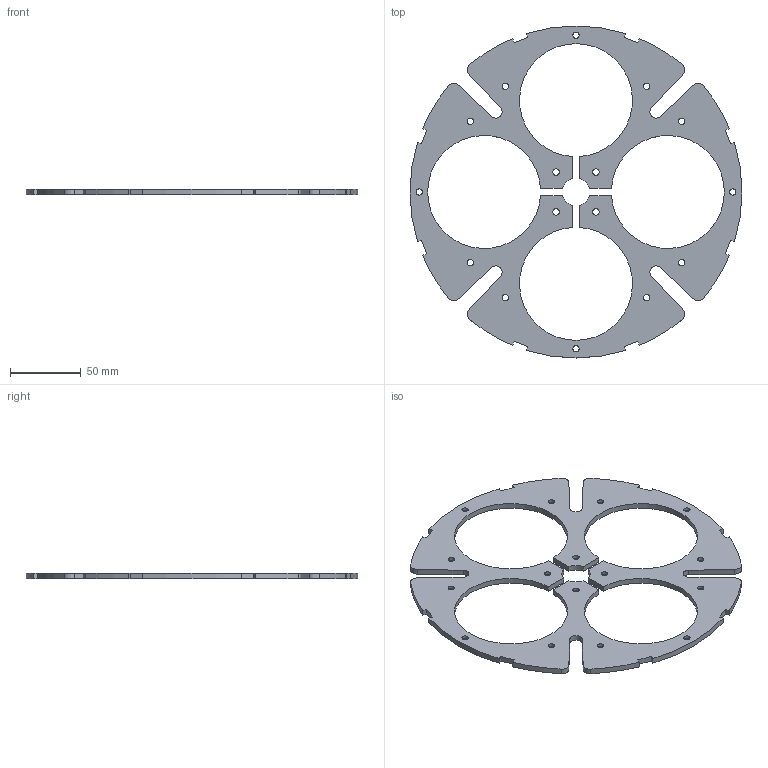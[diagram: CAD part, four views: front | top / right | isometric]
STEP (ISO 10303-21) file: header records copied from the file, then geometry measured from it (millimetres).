
FILE_DESCRIPTION((''),'2;1');
FILE_NAME('COV-02-0003-01','2021-06-30T',('Tomáš'),(''),'CREO PARAMETRIC BY PTC INC, 2016050','CREO PARAMETRIC BY PTC INC, 2016050','');
FILE_SCHEMA(('CONFIG_CONTROL_DESIGN'));
Length unit declared in the file: millimetre
Products named in the file (1): COV-02-0003-01
Bounding box: 235 x 235 x 4 mm (x, y, z)
Volume: 81793.6 mm3; surface area: 50767.4 mm2
Topology: 1 solids, 1 shells, 138 faces, 376 edges, 240 vertices
Faces by surface type: cylinder 64, plane 42, cone 32
Entity records: 4490 total; most frequent: DIRECTION 812, CARTESIAN_POINT 754, ORIENTED_EDGE 752, EDGE_CURVE 376, AXIS2_PLACEMENT_3D 298, VERTEX_POINT 240, VECTOR 216, LINE 216
